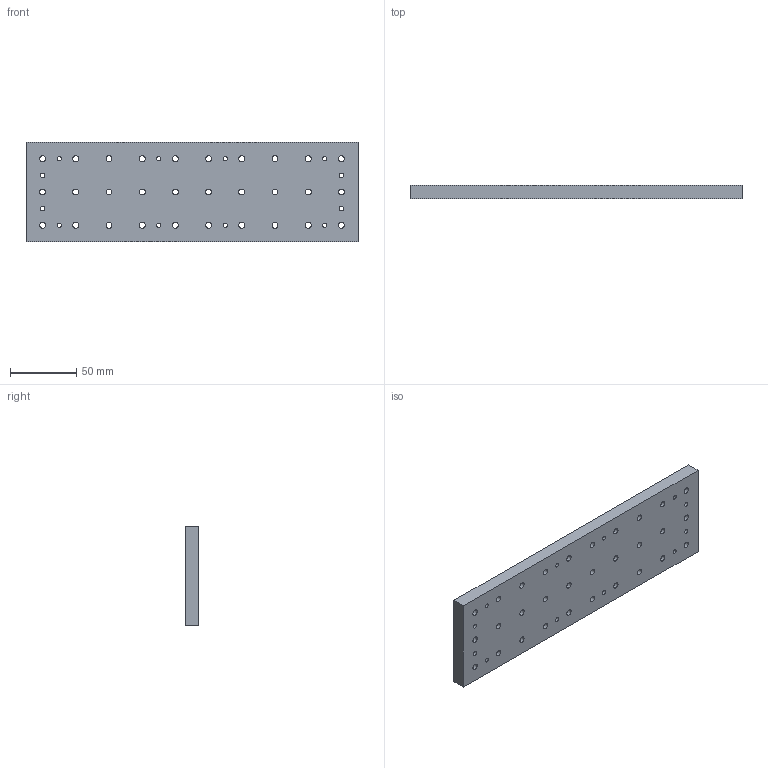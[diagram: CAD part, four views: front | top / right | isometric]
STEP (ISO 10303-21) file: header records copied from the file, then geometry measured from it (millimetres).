
FILE_DESCRIPTION(/* description */ (''),/* implementation_level */ '2;1');
FILE_NAME(/* name */ 'c-10x3-complete.stp',/* time_stamp */ '2026-06-05T17:05:41+08:00',/* author */ ('32769'),/* organization */ (''),/* preprocessor_version */ 'ST-DEVELOPER v20',/* originating_system */ 'Autodesk Inventor 2025',/* authorisation */ '');
FILE_SCHEMA (('AUTOMOTIVE_DESIGN { 1 0 10303 214 3 1 1 }'));
Length unit declared in the file: millimetre
Products named in the file (1): c-10x3-complete
Bounding box: 250 x 10 x 75 mm (x, y, z)
Volume: 181702.3 mm3; surface area: 48325.7 mm2
Topology: 1 solids, 1 shells, 48 faces, 138 edges, 92 vertices
Faces by surface type: cylinder 42, plane 6
Full cylindrical faces by diameter (mm): 3.3 x12, 4.5 x30
Entity records: 1837 total; most frequent: DIRECTION 320, CARTESIAN_POINT 279, ORIENTED_EDGE 276, EDGE_CURVE 138, AXIS2_PLACEMENT_3D 133, EDGE_LOOP 132, VERTEX_POINT 92, FACE_BOUND 84
